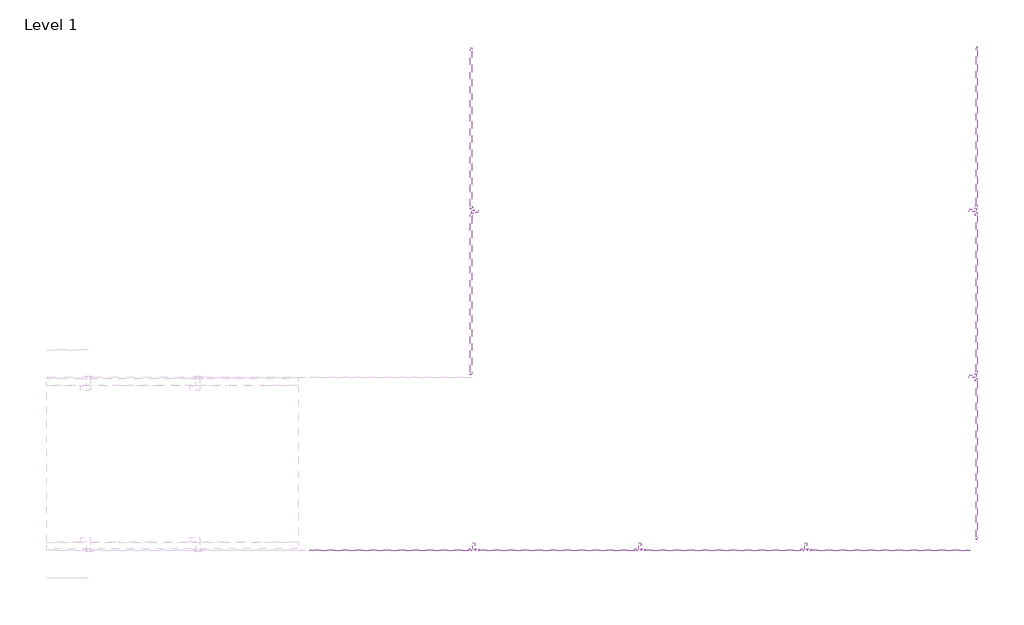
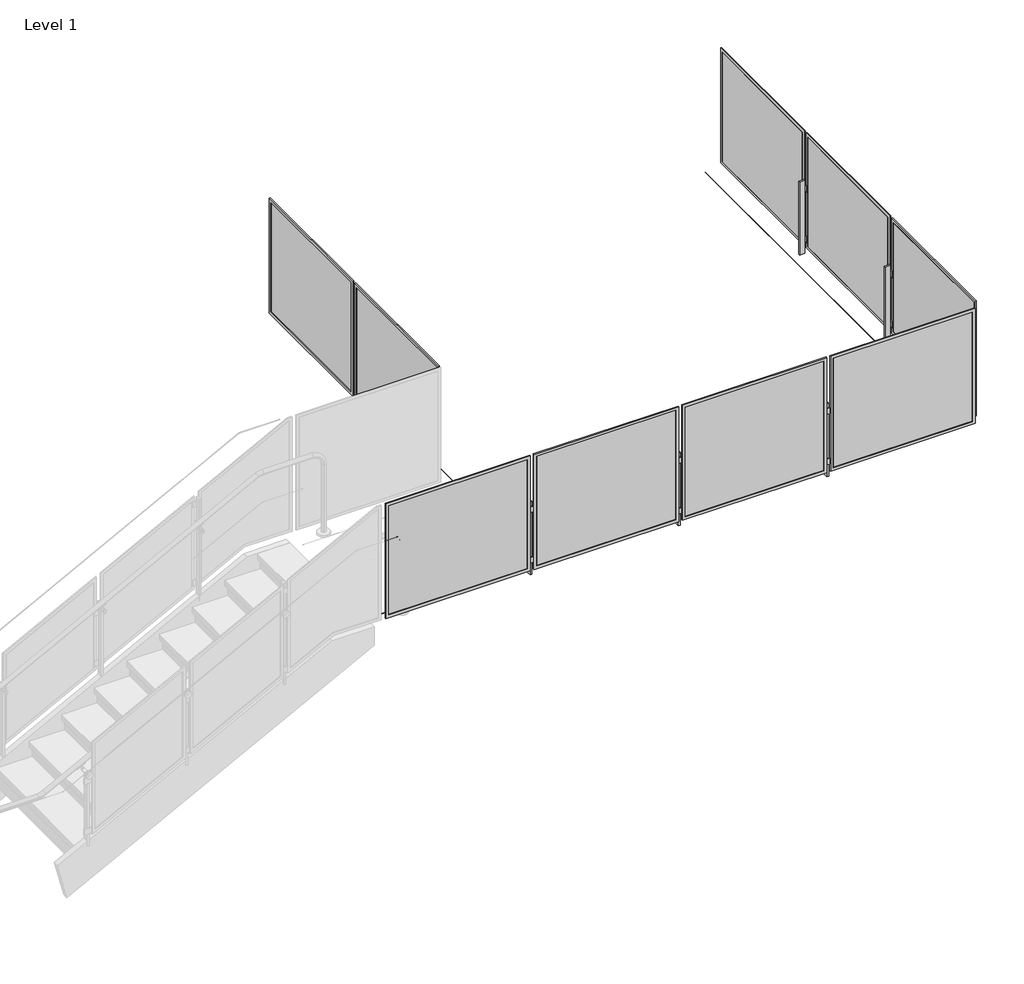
# One storey, part 9 of 28: 3 railings.
"""IFC4 building model written with IfcOpenShell, lengths in millimetres."""

from ifc_helpers import new_model, si_unit, point, frame, frame_2d, origin, place, context, project, spatial, polyline, circle_curve, trimmed, segment, composite_curve, outline, extrude, element, save

model = new_model("IFC4")

# Units and contexts
model_context = context("Model", 3, world=origin())
ifc_project = project(units=[si_unit("LENGTHUNIT", "METRE", prefix="MILLI")], contexts=[model_context])

# Site, building, storey
site = spatial("IfcSite", under=ifc_project)
building = spatial("IfcBuilding", under=site)
storey = spatial("IfcBuildingStorey", under=building, Name="Level 1", Elevation=0.0)

# Railings
placement = place(None, origin())
element("IfcRailing", 1, ObjectType="Metal-Panel-VIVA-STRUC-Slab-Top-Weld-Straight", at=placement, inside=storey, context=model_context, shape_type="SweptSolid", body=[
    extrude(outline(composite_curve([segment(trimmed(circle_curve(frame_2d((-31356.3310625, 3047.746)), 0.254), [point((-31356.5850625, 3047.746))], [point((-31356.0770625, 3047.746))], False, "CARTESIAN"), True, "CONTINUOUS"), segment(trimmed(circle_curve(frame_2d((-31356.3310625, 3047.746)), 0.254), [point((-31356.0770625, 3047.746))], [point((-31356.5850625, 3047.746))], False, "CARTESIAN"), True, "CONTINUOUS")], self_intersect=False)), frame((-12277.7813244, 0.0, 0.0), z_axis=(1.0, 0.0, 0.0), x_axis=(0.0, 1.0, 0.0)), (0.0, 0.0, 1.0), 5080.0),
    extrude(outline(composite_curve([segment(trimmed(circle_curve(frame_2d((-31356.3310625, 3047.746)), 0.254), [point((-31356.5850625, 3047.746))], [point((-31356.0770625, 3047.746))], False, "CARTESIAN"), True, "CONTINUOUS"), segment(trimmed(circle_curve(frame_2d((-31356.3310625, 3047.746)), 0.254), [point((-31356.0770625, 3047.746))], [point((-31356.5850625, 3047.746))], False, "CARTESIAN"), True, "CONTINUOUS")], self_intersect=False)), frame((-12277.7813244, 0.0, 0.0), z_axis=(1.0, 0.0, 0.0), x_axis=(0.0, 1.0, 0.0)), (0.0, 0.0, 1.0), 5080.0),
    extrude(outline(polyline([(-8426.9548675, -31483.1800625), (-8426.9548675, -31480.1800625), (-7238.6077814, -31480.1800625), (-7238.6077814, -31483.1800625), (-8426.9548675, -31483.1800625)])), frame((0.0, 0.0, 3124.1959569), z_axis=(0.0, 0.0, 1.0), x_axis=(1.0, 0.0, 0.0)), (0.0, 0.0, 1.0), 990.5826861),
    extrude(outline(polyline([(3098.7959569, -8452.3548675), (3098.7959569, -7213.2077814), (4140.1786431, -7213.2077814), (4140.1786431, -8452.3548675), (3098.7959569, -8452.3548675)]), holes=[polyline([(4114.7786431, -8426.9548675), (4114.7786431, -7238.6077814), (3124.1959569, -7238.6077814), (3124.1959569, -8426.9548675), (4114.7786431, -8426.9548675)])]), frame((0.0, -31489.7050625, 0.0), z_axis=(0.0, 1.0, 0.0), x_axis=(0.0, 0.0, 1.0)), (0.0, 0.0, 1.0), 9.525),
    extrude(outline(polyline([(-8505.8820437, -31473.0694625), (-8429.6806052, -31473.0694625), (-8429.6806052, -31480.1814625), (-8505.8820437, -31480.1814625), (-8505.8820437, -31473.0694625)])), frame((0.0, 0.0, 3617.976), z_axis=(0.0, 0.0, 1.0), x_axis=(1.0, 0.0, 0.0)), (0.0, 0.0, 1.0), 50.8),
    extrude(outline(polyline([(-8505.8820437, -31473.0694625), (-8429.6806052, -31473.0694625), (-8429.6806052, -31480.1814625), (-8505.8820437, -31480.1814625), (-8505.8820437, -31473.0694625)])), frame((0.0, 0.0, 3160.776), z_axis=(0.0, 0.0, 1.0), x_axis=(1.0, 0.0, 0.0)), (0.0, 0.0, 1.0), 50.8),
    extrude(outline(polyline([(-8475.7209161, -31428.6194625), (-8459.8417328, -31428.6194625), (-8459.8417328, -31473.0694625), (-8475.7209161, -31473.0694625), (-8475.7209161, -31428.6194625)])), frame((0.0, 0.0, 3048.0), z_axis=(0.0, 0.0, 1.0), x_axis=(1.0, 0.0, 0.0)), (0.0, 0.0, 1.0), 660.4),
    extrude(outline(polyline([(-9696.9548675, -31483.1800625), (-9696.9548675, -31480.1800625), (-8508.6077814, -31480.1800625), (-8508.6077814, -31483.1800625), (-9696.9548675, -31483.1800625)])), frame((0.0, 0.0, 3124.1959569), z_axis=(0.0, 0.0, 1.0), x_axis=(1.0, 0.0, 0.0)), (0.0, 0.0, 1.0), 990.5826861),
    extrude(outline(polyline([(3098.7959569, -9722.3548675), (3098.7959569, -8483.2077814), (4140.1786431, -8483.2077814), (4140.1786431, -9722.3548675), (3098.7959569, -9722.3548675)]), holes=[polyline([(4114.7786431, -9696.9548675), (4114.7786431, -8508.6077814), (3124.1959569, -8508.6077814), (3124.1959569, -9696.9548675), (4114.7786431, -9696.9548675)])]), frame((0.0, -31489.7050625, 0.0), z_axis=(0.0, 1.0, 0.0), x_axis=(0.0, 0.0, 1.0)), (0.0, 0.0, 1.0), 9.525),
    extrude(outline(polyline([(-9775.8820437, -31473.0694625), (-9699.6806052, -31473.0694625), (-9699.6806052, -31480.1814625), (-9775.8820437, -31480.1814625), (-9775.8820437, -31473.0694625)])), frame((0.0, 0.0, 3617.976), z_axis=(0.0, 0.0, 1.0), x_axis=(1.0, 0.0, 0.0)), (0.0, 0.0, 1.0), 50.8),
    extrude(outline(polyline([(-9775.8820437, -31473.0694625), (-9699.6806052, -31473.0694625), (-9699.6806052, -31480.1814625), (-9775.8820437, -31480.1814625), (-9775.8820437, -31473.0694625)])), frame((0.0, 0.0, 3160.776), z_axis=(0.0, 0.0, 1.0), x_axis=(1.0, 0.0, 0.0)), (0.0, 0.0, 1.0), 50.8),
    extrude(outline(polyline([(-9745.7209161, -31428.6194625), (-9729.8417328, -31428.6194625), (-9729.8417328, -31473.0694625), (-9745.7209161, -31473.0694625), (-9745.7209161, -31428.6194625)])), frame((0.0, 0.0, 3048.0), z_axis=(0.0, 0.0, 1.0), x_axis=(1.0, 0.0, 0.0)), (0.0, 0.0, 1.0), 660.4),
    extrude(outline(polyline([(-10966.9548675, -31483.1800625), (-10966.9548675, -31480.1800625), (-9778.6077814, -31480.1800625), (-9778.6077814, -31483.1800625), (-10966.9548675, -31483.1800625)])), frame((0.0, 0.0, 3124.1959569), z_axis=(0.0, 0.0, 1.0), x_axis=(1.0, 0.0, 0.0)), (0.0, 0.0, 1.0), 990.5826861),
    extrude(outline(polyline([(3098.7959569, -10992.3548675), (3098.7959569, -9753.2077814), (4140.1786431, -9753.2077814), (4140.1786431, -10992.3548675), (3098.7959569, -10992.3548675)]), holes=[polyline([(4114.7786431, -10966.9548675), (4114.7786431, -9778.6077814), (3124.1959569, -9778.6077814), (3124.1959569, -10966.9548675), (4114.7786431, -10966.9548675)])]), frame((0.0, -31489.7050625, 0.0), z_axis=(0.0, 1.0, 0.0), x_axis=(0.0, 0.0, 1.0)), (0.0, 0.0, 1.0), 9.525),
    extrude(outline(polyline([(-11045.8820437, -31473.0694625), (-10969.6806052, -31473.0694625), (-10969.6806052, -31480.1814625), (-11045.8820437, -31480.1814625), (-11045.8820437, -31473.0694625)])), frame((0.0, 0.0, 3617.976), z_axis=(0.0, 0.0, 1.0), x_axis=(1.0, 0.0, 0.0)), (0.0, 0.0, 1.0), 50.8),
    extrude(outline(polyline([(-11045.8820437, -31473.0694625), (-10969.6806052, -31473.0694625), (-10969.6806052, -31480.1814625), (-11045.8820437, -31480.1814625), (-11045.8820437, -31473.0694625)])), frame((0.0, 0.0, 3160.776), z_axis=(0.0, 0.0, 1.0), x_axis=(1.0, 0.0, 0.0)), (0.0, 0.0, 1.0), 50.8),
    extrude(outline(polyline([(-11015.7209161, -31428.6194625), (-10999.8417328, -31428.6194625), (-10999.8417328, -31473.0694625), (-11015.7209161, -31473.0694625), (-11015.7209161, -31428.6194625)])), frame((0.0, 0.0, 3048.0), z_axis=(0.0, 0.0, 1.0), x_axis=(1.0, 0.0, 0.0)), (0.0, 0.0, 1.0), 660.4),
    extrude(outline(polyline([(-12236.9548675, -31483.1800625), (-12236.9548675, -31480.1800625), (-11048.6077814, -31480.1800625), (-11048.6077814, -31483.1800625), (-12236.9548675, -31483.1800625)])), frame((0.0, 0.0, 3124.1959569), z_axis=(0.0, 0.0, 1.0), x_axis=(1.0, 0.0, 0.0)), (0.0, 0.0, 1.0), 990.5826861),
    extrude(outline(polyline([(3098.7959569, -12262.3548675), (3098.7959569, -11023.2077814), (4140.1786431, -11023.2077814), (4140.1786431, -12262.3548675), (3098.7959569, -12262.3548675)]), holes=[polyline([(4114.7786431, -12236.9548675), (4114.7786431, -11048.6077814), (3124.1959569, -11048.6077814), (3124.1959569, -12236.9548675), (4114.7786431, -12236.9548675)])]), frame((0.0, -31489.7050625, 0.0), z_axis=(0.0, 1.0, 0.0), x_axis=(0.0, 0.0, 1.0)), (0.0, 0.0, 1.0), 9.525),
])
element("IfcRailing", 2, ObjectType="Metal-Panel-VIVA-STRUC-Slab-Top-Weld-Straight", at=placement, inside=storey, context=model_context, shape_type="SweptSolid", body=[
    extrude(outline(composite_curve([segment(trimmed(circle_curve(frame_2d((3047.746, -10901.4919393)), 0.254), [point((3047.746, -10901.2379393))], [point((3047.746, -10901.7459393))], False, "CARTESIAN"), True, "CONTINUOUS"), segment(trimmed(circle_curve(frame_2d((3047.746, -10901.4919393)), 0.254), [point((3047.746, -10901.7459393))], [point((3047.746, -10901.2379393))], False, "CARTESIAN"), True, "CONTINUOUS")], self_intersect=False)), frame((0.0, -30159.4218394, 0.0), z_axis=(0.0, 1.0, 0.0), x_axis=(0.0, 0.0, 1.0)), (0.0, 0.0, 1.0), 2540.0),
    extrude(outline(composite_curve([segment(trimmed(circle_curve(frame_2d((3047.746, -10901.4919393)), 0.254), [point((3047.746, -10901.2379393))], [point((3047.746, -10901.7459393))], False, "CARTESIAN"), True, "CONTINUOUS"), segment(trimmed(circle_curve(frame_2d((3047.746, -10901.4919393)), 0.254), [point((3047.746, -10901.7459393))], [point((3047.746, -10901.2379393))], False, "CARTESIAN"), True, "CONTINUOUS")], self_intersect=False)), frame((0.0, -30159.4218394, 0.0), z_axis=(0.0, 1.0, 0.0), x_axis=(0.0, 0.0, 1.0)), (0.0, 0.0, 1.0), 2540.0),
    extrude(outline(polyline([(-11028.3409393, -28848.5953825), (-11028.3409393, -27660.2482963), (-11025.3409393, -27660.2482963), (-11025.3409393, -28848.5953825), (-11028.3409393, -28848.5953825)])), frame((0.0, 0.0, 3124.1959569), z_axis=(0.0, 0.0, 1.0), x_axis=(1.0, 0.0, 0.0)), (0.0, 0.0, 1.0), 990.5826861),
    extrude(outline(polyline([(-28873.9953825, 3098.7959569), (-28873.9953825, 4140.1786431), (-27634.8482963, 4140.1786431), (-27634.8482963, 3098.7959569), (-28873.9953825, 3098.7959569)]), holes=[polyline([(-28848.5953825, 4114.7786431), (-28848.5953825, 3124.1959569), (-27660.2482963, 3124.1959569), (-27660.2482963, 4114.7786431), (-28848.5953825, 4114.7786431)])]), frame((-11034.8659393, 0.0, 0.0), z_axis=(1.0, 0.0, 0.0), x_axis=(0.0, 1.0, 0.0)), (0.0, 0.0, 1.0), 9.525),
    extrude(outline(polyline([(-11018.2303393, -28927.5225586), (-11025.3423393, -28927.5225586), (-11025.3423393, -28851.3211202), (-11018.2303393, -28851.3211202), (-11018.2303393, -28927.5225586)])), frame((0.0, 0.0, 3617.976), z_axis=(0.0, 0.0, 1.0), x_axis=(1.0, 0.0, 0.0)), (0.0, 0.0, 1.0), 50.8),
    extrude(outline(polyline([(-11018.2303393, -28927.5225586), (-11025.3423393, -28927.5225586), (-11025.3423393, -28851.3211202), (-11018.2303393, -28851.3211202), (-11018.2303393, -28927.5225586)])), frame((0.0, 0.0, 3160.776), z_axis=(0.0, 0.0, 1.0), x_axis=(1.0, 0.0, 0.0)), (0.0, 0.0, 1.0), 50.8),
    extrude(outline(polyline([(-10973.7803393, -28897.361431), (-11018.2303393, -28897.361431), (-11018.2303393, -28881.4822477), (-10973.7803393, -28881.4822477), (-10973.7803393, -28897.361431)])), frame((0.0, 0.0, 3048.0), z_axis=(0.0, 0.0, 1.0), x_axis=(1.0, 0.0, 0.0)), (0.0, 0.0, 1.0), 660.4),
    extrude(outline(polyline([(-11028.3409393, -30118.5953825), (-11028.3409393, -28930.2482963), (-11025.3409393, -28930.2482963), (-11025.3409393, -30118.5953825), (-11028.3409393, -30118.5953825)])), frame((0.0, 0.0, 3124.1959569), z_axis=(0.0, 0.0, 1.0), x_axis=(1.0, 0.0, 0.0)), (0.0, 0.0, 1.0), 990.5826861),
    extrude(outline(polyline([(-30143.9953825, 3098.7959569), (-30143.9953825, 4140.1786431), (-28904.8482963, 4140.1786431), (-28904.8482963, 3098.7959569), (-30143.9953825, 3098.7959569)]), holes=[polyline([(-30118.5953825, 4114.7786431), (-30118.5953825, 3124.1959569), (-28930.2482963, 3124.1959569), (-28930.2482963, 4114.7786431), (-30118.5953825, 4114.7786431)])]), frame((-11034.8659393, 0.0, 0.0), z_axis=(1.0, 0.0, 0.0), x_axis=(0.0, 1.0, 0.0)), (0.0, 0.0, 1.0), 9.525),
])
element("IfcRailing", 3, ObjectType="Metal-Panel-VIVA-STRUC-Slab-Top-Weld-Straight", at=placement, inside=storey, context=model_context, shape_type="SweptSolid", body=[
    extrude(outline(composite_curve([segment(trimmed(circle_curve(frame_2d((3047.746, -7288.2091099)), 0.254), [point((3047.746, -7287.9551099))], [point((3047.746, -7288.4631099))], False, "CARTESIAN"), True, "CONTINUOUS"), segment(trimmed(circle_curve(frame_2d((3047.746, -7288.2091099)), 0.254), [point((3047.746, -7288.4631099))], [point((3047.746, -7287.9551099))], False, "CARTESIAN"), True, "CONTINUOUS")], self_intersect=False)), frame((0.0, -31422.1015554, 0.0), z_axis=(0.0, 1.0, 0.0), x_axis=(0.0, 0.0, 1.0)), (0.0, 0.0, 1.0), 3810.0),
    extrude(outline(composite_curve([segment(trimmed(circle_curve(frame_2d((3047.746, -7288.2091099)), 0.254), [point((3047.746, -7287.9551099))], [point((3047.746, -7288.4631099))], False, "CARTESIAN"), True, "CONTINUOUS"), segment(trimmed(circle_curve(frame_2d((3047.746, -7288.2091099)), 0.254), [point((3047.746, -7288.4631099))], [point((3047.746, -7287.9551099))], False, "CARTESIAN"), True, "CONTINUOUS")], self_intersect=False)), frame((0.0, -31422.1015554, 0.0), z_axis=(0.0, 1.0, 0.0), x_axis=(0.0, 0.0, 1.0)), (0.0, 0.0, 1.0), 3810.0),
    extrude(outline(polyline([(-7161.3601099, -28841.2750985), (-7164.3601099, -28841.2750985), (-7164.3601099, -27652.9280124), (-7161.3601099, -27652.9280124), (-7161.3601099, -28841.2750985)])), frame((0.0, 0.0, 3124.1959569), z_axis=(0.0, 0.0, 1.0), x_axis=(1.0, 0.0, 0.0)), (0.0, 0.0, 1.0), 990.5826861),
    extrude(outline(polyline([(-28866.6750985, 4140.1786431), (-27627.5280124, 4140.1786431), (-27627.5280124, 3098.7959569), (-28866.6750985, 3098.7959569), (-28866.6750985, 4140.1786431)]), holes=[polyline([(-28841.2750985, 3124.1959569), (-27652.9280124, 3124.1959569), (-27652.9280124, 4114.7786431), (-28841.2750985, 4114.7786431), (-28841.2750985, 3124.1959569)])]), frame((-7164.3601099, 0.0, 0.0), z_axis=(1.0, 0.0, 0.0), x_axis=(0.0, 1.0, 0.0)), (0.0, 0.0, 1.0), 9.525),
    extrude(outline(polyline([(-7171.4707099, -28920.2022747), (-7171.4707099, -28844.0008362), (-7164.3587099, -28844.0008362), (-7164.3587099, -28920.2022747), (-7171.4707099, -28920.2022747)])), frame((0.0, 0.0, 3617.976), z_axis=(0.0, 0.0, 1.0), x_axis=(1.0, 0.0, 0.0)), (0.0, 0.0, 1.0), 50.8),
    extrude(outline(polyline([(-7171.4707099, -28920.2022747), (-7171.4707099, -28844.0008362), (-7164.3587099, -28844.0008362), (-7164.3587099, -28920.2022747), (-7171.4707099, -28920.2022747)])), frame((0.0, 0.0, 3160.776), z_axis=(0.0, 0.0, 1.0), x_axis=(1.0, 0.0, 0.0)), (0.0, 0.0, 1.0), 50.8),
    extrude(outline(polyline([(-7215.9207099, -28890.0411471), (-7215.9207099, -28874.1619638), (-7171.4707099, -28874.1619638), (-7171.4707099, -28890.0411471), (-7215.9207099, -28890.0411471)])), frame((0.0, 0.0, 3048.0), z_axis=(0.0, 0.0, 1.0), x_axis=(1.0, 0.0, 0.0)), (0.0, 0.0, 1.0), 660.4),
    extrude(outline(polyline([(-7161.3601099, -30111.2750985), (-7164.3601099, -30111.2750985), (-7164.3601099, -28922.9280124), (-7161.3601099, -28922.9280124), (-7161.3601099, -30111.2750985)])), frame((0.0, 0.0, 3124.1959569), z_axis=(0.0, 0.0, 1.0), x_axis=(1.0, 0.0, 0.0)), (0.0, 0.0, 1.0), 990.5826861),
    extrude(outline(polyline([(-30136.6750985, 4140.1786431), (-28897.5280124, 4140.1786431), (-28897.5280124, 3098.7959569), (-30136.6750985, 3098.7959569), (-30136.6750985, 4140.1786431)]), holes=[polyline([(-30111.2750985, 3124.1959569), (-28922.9280124, 3124.1959569), (-28922.9280124, 4114.7786431), (-30111.2750985, 4114.7786431), (-30111.2750985, 3124.1959569)])]), frame((-7164.3601099, 0.0, 0.0), z_axis=(1.0, 0.0, 0.0), x_axis=(0.0, 1.0, 0.0)), (0.0, 0.0, 1.0), 9.525),
    extrude(outline(polyline([(-7171.4707099, -30190.2022747), (-7171.4707099, -30114.0008362), (-7164.3587099, -30114.0008362), (-7164.3587099, -30190.2022747), (-7171.4707099, -30190.2022747)])), frame((0.0, 0.0, 3617.976), z_axis=(0.0, 0.0, 1.0), x_axis=(1.0, 0.0, 0.0)), (0.0, 0.0, 1.0), 50.8),
    extrude(outline(polyline([(-7171.4707099, -30190.2022747), (-7171.4707099, -30114.0008362), (-7164.3587099, -30114.0008362), (-7164.3587099, -30190.2022747), (-7171.4707099, -30190.2022747)])), frame((0.0, 0.0, 3160.776), z_axis=(0.0, 0.0, 1.0), x_axis=(1.0, 0.0, 0.0)), (0.0, 0.0, 1.0), 50.8),
    extrude(outline(polyline([(-7215.9207099, -30160.0411471), (-7215.9207099, -30144.1619638), (-7171.4707099, -30144.1619638), (-7171.4707099, -30160.0411471), (-7215.9207099, -30160.0411471)])), frame((0.0, 0.0, 3048.0), z_axis=(0.0, 0.0, 1.0), x_axis=(1.0, 0.0, 0.0)), (0.0, 0.0, 1.0), 660.4),
    extrude(outline(polyline([(-7161.3601099, -31381.2750985), (-7164.3601099, -31381.2750985), (-7164.3601099, -30192.9280124), (-7161.3601099, -30192.9280124), (-7161.3601099, -31381.2750985)])), frame((0.0, 0.0, 3124.1959569), z_axis=(0.0, 0.0, 1.0), x_axis=(1.0, 0.0, 0.0)), (0.0, 0.0, 1.0), 990.5826861),
    extrude(outline(polyline([(-31406.6750985, 4140.1786431), (-30167.5280124, 4140.1786431), (-30167.5280124, 3098.7959569), (-31406.6750985, 3098.7959569), (-31406.6750985, 4140.1786431)]), holes=[polyline([(-31381.2750985, 3124.1959569), (-30192.9280124, 3124.1959569), (-30192.9280124, 4114.7786431), (-31381.2750985, 4114.7786431), (-31381.2750985, 3124.1959569)])]), frame((-7164.3601099, 0.0, 0.0), z_axis=(1.0, 0.0, 0.0), x_axis=(0.0, 1.0, 0.0)), (0.0, 0.0, 1.0), 9.525),
])

save(model, "model.ifc")
